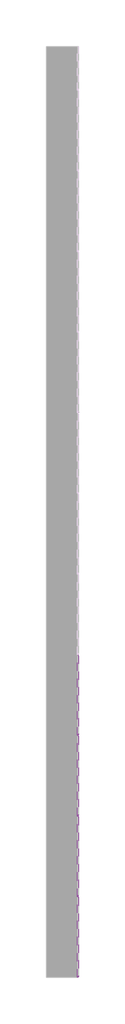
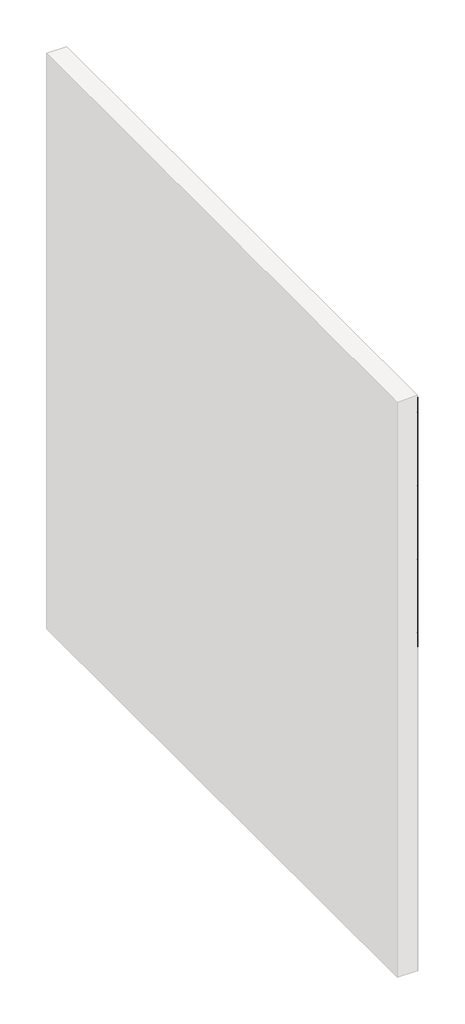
# One storey, part 2 of 45: 147 proxies.
"""IFC4 building model written with IfcOpenShell, lengths in millimetres."""

from ifc_helpers import new_model, si_unit, origin, place, context, project, spatial, transform, mapped, element, save
from components import generic_models_ab0f2c30

model = new_model("IFC4")

# Units and contexts
model_context = context("Model", 3, world=origin())
ifc_project = project(units=[si_unit("LENGTHUNIT", "METRE", prefix="MILLI")], contexts=[model_context])

# Site, building, storey
site = spatial("IfcSite", under=ifc_project)
building = spatial("IfcBuilding", under=site)
storey = spatial("IfcBuildingStorey", under=building, Name="PORTOBELLO - SHOWROOM", Elevation=0.0)

# Proxies
placement = place(None, origin())
generic_models_shape = generic_models_ab0f2c30(model_context)
element("IfcBuildingElementProxy", 1, Name="PBSHOP - HORIZONTES JAIPUR 6,5X23 : JAIPUR CHANDRA", ObjectType="PBSHOP - HORIZONTES JAIPUR 6,5X23 : JAIPUR CHANDRA", at=placement, inside=storey, context=model_context, shape_type="MappedRepresentation", body=[
    mapped(generic_models_shape, transform((63939.1036979, 2039.9760255, 34.5), x_axis=(0.0, 0.0, 1.0), y_axis=(0.0, -1.0, 0.0), z_axis=(1.0, 0.0, 0.0))),
])
element("IfcBuildingElementProxy", 2, Name="PBSHOP - HORIZONTES JAIPUR 6,5X23 : JAIPUR CHANDRA", ObjectType="PBSHOP - HORIZONTES JAIPUR 6,5X23 : JAIPUR CHANDRA", at=placement, inside=storey, context=model_context, shape_type="MappedRepresentation", body=[
    mapped(generic_models_shape, transform((63939.1036979, 2273.9760255, 34.5), x_axis=(0.0, 0.0, 1.0), y_axis=(0.0, -1.0, 0.0), z_axis=(1.0, 0.0, 0.0))),
])
element("IfcBuildingElementProxy", 3, Name="PBSHOP - HORIZONTES JAIPUR 6,5X23 : JAIPUR CHANDRA", ObjectType="PBSHOP - HORIZONTES JAIPUR 6,5X23 : JAIPUR CHANDRA", at=placement, inside=storey, context=model_context, shape_type="MappedRepresentation", body=[
    mapped(generic_models_shape, transform((63939.1036979, 2507.9760255, 34.5), x_axis=(0.0, 0.0, 1.0), y_axis=(0.0, -1.0, 0.0), z_axis=(1.0, 0.0, 0.0))),
])
element("IfcBuildingElementProxy", 4, Name="PBSHOP - HORIZONTES JAIPUR 6,5X23 : JAIPUR CHANDRA", ObjectType="PBSHOP - HORIZONTES JAIPUR 6,5X23 : JAIPUR CHANDRA", at=placement, inside=storey, context=model_context, shape_type="MappedRepresentation", body=[
    mapped(generic_models_shape, transform((63939.1036979, 2741.9760255, 34.5), x_axis=(0.0, 0.0, 1.0), y_axis=(0.0, -1.0, 0.0), z_axis=(1.0, 0.0, 0.0))),
])
element("IfcBuildingElementProxy", 5, Name="PBSHOP - HORIZONTES JAIPUR 6,5X23 : JAIPUR CHANDRA", ObjectType="PBSHOP - HORIZONTES JAIPUR 6,5X23 : JAIPUR CHANDRA", at=placement, inside=storey, context=model_context, shape_type="MappedRepresentation", body=[
    mapped(generic_models_shape, transform((63939.1036979, 2975.9760255, 34.5), x_axis=(0.0, 0.0, 1.0), y_axis=(0.0, -1.0, 0.0), z_axis=(1.0, 0.0, 0.0))),
])
element("IfcBuildingElementProxy", 6, Name="PBSHOP - HORIZONTES JAIPUR 6,5X23 : JAIPUR CHANDRA", ObjectType="PBSHOP - HORIZONTES JAIPUR 6,5X23 : JAIPUR CHANDRA", at=placement, inside=storey, context=model_context, shape_type="MappedRepresentation", body=[
    mapped(generic_models_shape, transform((63939.1036979, 2039.9760255, 103.5), x_axis=(0.0, 0.0, 1.0), y_axis=(0.0, -1.0, 0.0), z_axis=(1.0, 0.0, 0.0))),
])
element("IfcBuildingElementProxy", 7, Name="PBSHOP - HORIZONTES JAIPUR 6,5X23 : JAIPUR CHANDRA", ObjectType="PBSHOP - HORIZONTES JAIPUR 6,5X23 : JAIPUR CHANDRA", at=placement, inside=storey, context=model_context, shape_type="MappedRepresentation", body=[
    mapped(generic_models_shape, transform((63939.1036979, 2273.9760255, 103.5), x_axis=(0.0, 0.0, 1.0), y_axis=(0.0, -1.0, 0.0), z_axis=(1.0, 0.0, 0.0))),
])
element("IfcBuildingElementProxy", 8, Name="PBSHOP - HORIZONTES JAIPUR 6,5X23 : JAIPUR CHANDRA", ObjectType="PBSHOP - HORIZONTES JAIPUR 6,5X23 : JAIPUR CHANDRA", at=placement, inside=storey, context=model_context, shape_type="MappedRepresentation", body=[
    mapped(generic_models_shape, transform((63939.1036979, 2507.9760255, 103.5), x_axis=(0.0, 0.0, 1.0), y_axis=(0.0, -1.0, 0.0), z_axis=(1.0, 0.0, 0.0))),
])
element("IfcBuildingElementProxy", 9, Name="PBSHOP - HORIZONTES JAIPUR 6,5X23 : JAIPUR CHANDRA", ObjectType="PBSHOP - HORIZONTES JAIPUR 6,5X23 : JAIPUR CHANDRA", at=placement, inside=storey, context=model_context, shape_type="MappedRepresentation", body=[
    mapped(generic_models_shape, transform((63939.1036979, 2741.9760255, 103.5), x_axis=(0.0, 0.0, 1.0), y_axis=(0.0, -1.0, 0.0), z_axis=(1.0, 0.0, 0.0))),
])
element("IfcBuildingElementProxy", 10, Name="PBSHOP - HORIZONTES JAIPUR 6,5X23 : JAIPUR CHANDRA", ObjectType="PBSHOP - HORIZONTES JAIPUR 6,5X23 : JAIPUR CHANDRA", at=placement, inside=storey, context=model_context, shape_type="MappedRepresentation", body=[
    mapped(generic_models_shape, transform((63939.1036979, 2975.9760255, 103.5), x_axis=(0.0, 0.0, 1.0), y_axis=(0.0, -1.0, 0.0), z_axis=(1.0, 0.0, 0.0))),
])
element("IfcBuildingElementProxy", 11, Name="PBSHOP - HORIZONTES JAIPUR 6,5X23 : JAIPUR CHANDRA", ObjectType="PBSHOP - HORIZONTES JAIPUR 6,5X23 : JAIPUR CHANDRA", at=placement, inside=storey, context=model_context, shape_type="MappedRepresentation", body=[
    mapped(generic_models_shape, transform((63939.1036979, 2039.9760255, 172.5), x_axis=(0.0, 0.0, 1.0), y_axis=(0.0, -1.0, 0.0), z_axis=(1.0, 0.0, 0.0))),
])
element("IfcBuildingElementProxy", 12, Name="PBSHOP - HORIZONTES JAIPUR 6,5X23 : JAIPUR CHANDRA", ObjectType="PBSHOP - HORIZONTES JAIPUR 6,5X23 : JAIPUR CHANDRA", at=placement, inside=storey, context=model_context, shape_type="MappedRepresentation", body=[
    mapped(generic_models_shape, transform((63939.1036979, 2273.9760255, 172.5), x_axis=(0.0, 0.0, 1.0), y_axis=(0.0, -1.0, 0.0), z_axis=(1.0, 0.0, 0.0))),
])
element("IfcBuildingElementProxy", 13, Name="PBSHOP - HORIZONTES JAIPUR 6,5X23 : JAIPUR CHANDRA", ObjectType="PBSHOP - HORIZONTES JAIPUR 6,5X23 : JAIPUR CHANDRA", at=placement, inside=storey, context=model_context, shape_type="MappedRepresentation", body=[
    mapped(generic_models_shape, transform((63939.1036979, 2507.9760255, 172.5), x_axis=(0.0, 0.0, 1.0), y_axis=(0.0, -1.0, 0.0), z_axis=(1.0, 0.0, 0.0))),
])
element("IfcBuildingElementProxy", 14, Name="PBSHOP - HORIZONTES JAIPUR 6,5X23 : JAIPUR CHANDRA", ObjectType="PBSHOP - HORIZONTES JAIPUR 6,5X23 : JAIPUR CHANDRA", at=placement, inside=storey, context=model_context, shape_type="MappedRepresentation", body=[
    mapped(generic_models_shape, transform((63939.1036979, 2741.9760255, 172.5), x_axis=(0.0, 0.0, 1.0), y_axis=(0.0, -1.0, 0.0), z_axis=(1.0, 0.0, 0.0))),
])
element("IfcBuildingElementProxy", 15, Name="PBSHOP - HORIZONTES JAIPUR 6,5X23 : JAIPUR CHANDRA", ObjectType="PBSHOP - HORIZONTES JAIPUR 6,5X23 : JAIPUR CHANDRA", at=placement, inside=storey, context=model_context, shape_type="MappedRepresentation", body=[
    mapped(generic_models_shape, transform((63939.1036979, 2975.9760255, 172.5), x_axis=(0.0, 0.0, 1.0), y_axis=(0.0, -1.0, 0.0), z_axis=(1.0, 0.0, 0.0))),
])
element("IfcBuildingElementProxy", 16, Name="PBSHOP - HORIZONTES JAIPUR 6,5X23 : JAIPUR CHANDRA", ObjectType="PBSHOP - HORIZONTES JAIPUR 6,5X23 : JAIPUR CHANDRA", at=placement, inside=storey, context=model_context, shape_type="MappedRepresentation", body=[
    mapped(generic_models_shape, transform((63939.1036979, 2039.9760255, 241.5), x_axis=(0.0, 0.0, 1.0), y_axis=(0.0, -1.0, 0.0), z_axis=(1.0, 0.0, 0.0))),
])
element("IfcBuildingElementProxy", 17, Name="PBSHOP - HORIZONTES JAIPUR 6,5X23 : JAIPUR CHANDRA", ObjectType="PBSHOP - HORIZONTES JAIPUR 6,5X23 : JAIPUR CHANDRA", at=placement, inside=storey, context=model_context, shape_type="MappedRepresentation", body=[
    mapped(generic_models_shape, transform((63939.1036979, 2273.9760255, 241.5), x_axis=(0.0, 0.0, 1.0), y_axis=(0.0, -1.0, 0.0), z_axis=(1.0, 0.0, 0.0))),
])
element("IfcBuildingElementProxy", 18, Name="PBSHOP - HORIZONTES JAIPUR 6,5X23 : JAIPUR CHANDRA", ObjectType="PBSHOP - HORIZONTES JAIPUR 6,5X23 : JAIPUR CHANDRA", at=placement, inside=storey, context=model_context, shape_type="MappedRepresentation", body=[
    mapped(generic_models_shape, transform((63939.1036979, 2507.9760255, 241.5), x_axis=(0.0, 0.0, 1.0), y_axis=(0.0, -1.0, 0.0), z_axis=(1.0, 0.0, 0.0))),
])
element("IfcBuildingElementProxy", 19, Name="PBSHOP - HORIZONTES JAIPUR 6,5X23 : JAIPUR CHANDRA", ObjectType="PBSHOP - HORIZONTES JAIPUR 6,5X23 : JAIPUR CHANDRA", at=placement, inside=storey, context=model_context, shape_type="MappedRepresentation", body=[
    mapped(generic_models_shape, transform((63939.1036979, 2741.9760255, 241.5), x_axis=(0.0, 0.0, 1.0), y_axis=(0.0, -1.0, 0.0), z_axis=(1.0, 0.0, 0.0))),
])
element("IfcBuildingElementProxy", 20, Name="PBSHOP - HORIZONTES JAIPUR 6,5X23 : JAIPUR CHANDRA", ObjectType="PBSHOP - HORIZONTES JAIPUR 6,5X23 : JAIPUR CHANDRA", at=placement, inside=storey, context=model_context, shape_type="MappedRepresentation", body=[
    mapped(generic_models_shape, transform((63939.1036979, 2975.9760255, 241.5), x_axis=(0.0, 0.0, 1.0), y_axis=(0.0, -1.0, 0.0), z_axis=(1.0, 0.0, 0.0))),
])
element("IfcBuildingElementProxy", 21, Name="PBSHOP - HORIZONTES JAIPUR 6,5X23 : JAIPUR CHANDRA", ObjectType="PBSHOP - HORIZONTES JAIPUR 6,5X23 : JAIPUR CHANDRA", at=placement, inside=storey, context=model_context, shape_type="MappedRepresentation", body=[
    mapped(generic_models_shape, transform((63939.1036979, 2039.9760255, 310.5), x_axis=(0.0, 0.0, 1.0), y_axis=(0.0, -1.0, 0.0), z_axis=(1.0, 0.0, 0.0))),
])
element("IfcBuildingElementProxy", 22, Name="PBSHOP - HORIZONTES JAIPUR 6,5X23 : JAIPUR CHANDRA", ObjectType="PBSHOP - HORIZONTES JAIPUR 6,5X23 : JAIPUR CHANDRA", at=placement, inside=storey, context=model_context, shape_type="MappedRepresentation", body=[
    mapped(generic_models_shape, transform((63939.1036979, 2273.9760255, 310.5), x_axis=(0.0, 0.0, 1.0), y_axis=(0.0, -1.0, 0.0), z_axis=(1.0, 0.0, 0.0))),
])
element("IfcBuildingElementProxy", 23, Name="PBSHOP - HORIZONTES JAIPUR 6,5X23 : JAIPUR CHANDRA", ObjectType="PBSHOP - HORIZONTES JAIPUR 6,5X23 : JAIPUR CHANDRA", at=placement, inside=storey, context=model_context, shape_type="MappedRepresentation", body=[
    mapped(generic_models_shape, transform((63939.1036979, 2507.9760255, 310.5), x_axis=(0.0, 0.0, 1.0), y_axis=(0.0, -1.0, 0.0), z_axis=(1.0, 0.0, 0.0))),
])
element("IfcBuildingElementProxy", 24, Name="PBSHOP - HORIZONTES JAIPUR 6,5X23 : JAIPUR CHANDRA", ObjectType="PBSHOP - HORIZONTES JAIPUR 6,5X23 : JAIPUR CHANDRA", at=placement, inside=storey, context=model_context, shape_type="MappedRepresentation", body=[
    mapped(generic_models_shape, transform((63939.1036979, 2741.9760255, 310.5), x_axis=(0.0, 0.0, 1.0), y_axis=(0.0, -1.0, 0.0), z_axis=(1.0, 0.0, 0.0))),
])
element("IfcBuildingElementProxy", 25, Name="PBSHOP - HORIZONTES JAIPUR 6,5X23 : JAIPUR CHANDRA", ObjectType="PBSHOP - HORIZONTES JAIPUR 6,5X23 : JAIPUR CHANDRA", at=placement, inside=storey, context=model_context, shape_type="MappedRepresentation", body=[
    mapped(generic_models_shape, transform((63939.1036979, 2975.9760255, 310.5), x_axis=(0.0, 0.0, 1.0), y_axis=(0.0, -1.0, 0.0), z_axis=(1.0, 0.0, 0.0))),
])
element("IfcBuildingElementProxy", 26, Name="PBSHOP - HORIZONTES JAIPUR 6,5X23 : JAIPUR CHANDRA", ObjectType="PBSHOP - HORIZONTES JAIPUR 6,5X23 : JAIPUR CHANDRA", at=placement, inside=storey, context=model_context, shape_type="MappedRepresentation", body=[
    mapped(generic_models_shape, transform((63939.1036979, 2039.9760255, 379.5), x_axis=(0.0, 0.0, 1.0), y_axis=(0.0, -1.0, 0.0), z_axis=(1.0, 0.0, 0.0))),
])
element("IfcBuildingElementProxy", 27, Name="PBSHOP - HORIZONTES JAIPUR 6,5X23 : JAIPUR CHANDRA", ObjectType="PBSHOP - HORIZONTES JAIPUR 6,5X23 : JAIPUR CHANDRA", at=placement, inside=storey, context=model_context, shape_type="MappedRepresentation", body=[
    mapped(generic_models_shape, transform((63939.1036979, 2273.9760255, 379.5), x_axis=(0.0, 0.0, 1.0), y_axis=(0.0, -1.0, 0.0), z_axis=(1.0, 0.0, 0.0))),
])
element("IfcBuildingElementProxy", 28, Name="PBSHOP - HORIZONTES JAIPUR 6,5X23 : JAIPUR CHANDRA", ObjectType="PBSHOP - HORIZONTES JAIPUR 6,5X23 : JAIPUR CHANDRA", at=placement, inside=storey, context=model_context, shape_type="MappedRepresentation", body=[
    mapped(generic_models_shape, transform((63939.1036979, 2507.9760255, 379.5), x_axis=(0.0, 0.0, 1.0), y_axis=(0.0, -1.0, 0.0), z_axis=(1.0, 0.0, 0.0))),
])
element("IfcBuildingElementProxy", 29, Name="PBSHOP - HORIZONTES JAIPUR 6,5X23 : JAIPUR CHANDRA", ObjectType="PBSHOP - HORIZONTES JAIPUR 6,5X23 : JAIPUR CHANDRA", at=placement, inside=storey, context=model_context, shape_type="MappedRepresentation", body=[
    mapped(generic_models_shape, transform((63939.1036979, 2741.9760255, 379.5), x_axis=(0.0, 0.0, 1.0), y_axis=(0.0, -1.0, 0.0), z_axis=(1.0, 0.0, 0.0))),
])
element("IfcBuildingElementProxy", 30, Name="PBSHOP - HORIZONTES JAIPUR 6,5X23 : JAIPUR CHANDRA", ObjectType="PBSHOP - HORIZONTES JAIPUR 6,5X23 : JAIPUR CHANDRA", at=placement, inside=storey, context=model_context, shape_type="MappedRepresentation", body=[
    mapped(generic_models_shape, transform((63939.1036979, 2975.9760255, 379.5), x_axis=(0.0, 0.0, 1.0), y_axis=(0.0, -1.0, 0.0), z_axis=(1.0, 0.0, 0.0))),
])
element("IfcBuildingElementProxy", 31, Name="PBSHOP - HORIZONTES JAIPUR 6,5X23 : JAIPUR CHANDRA", ObjectType="PBSHOP - HORIZONTES JAIPUR 6,5X23 : JAIPUR CHANDRA", at=placement, inside=storey, context=model_context, shape_type="MappedRepresentation", body=[
    mapped(generic_models_shape, transform((63939.1036979, 2039.9760255, 448.5), x_axis=(0.0, 0.0, 1.0), y_axis=(0.0, -1.0, 0.0), z_axis=(1.0, 0.0, 0.0))),
])
element("IfcBuildingElementProxy", 32, Name="PBSHOP - HORIZONTES JAIPUR 6,5X23 : JAIPUR CHANDRA", ObjectType="PBSHOP - HORIZONTES JAIPUR 6,5X23 : JAIPUR CHANDRA", at=placement, inside=storey, context=model_context, shape_type="MappedRepresentation", body=[
    mapped(generic_models_shape, transform((63939.1036979, 2273.9760255, 448.5), x_axis=(0.0, 0.0, 1.0), y_axis=(0.0, -1.0, 0.0), z_axis=(1.0, 0.0, 0.0))),
])
element("IfcBuildingElementProxy", 33, Name="PBSHOP - HORIZONTES JAIPUR 6,5X23 : JAIPUR CHANDRA", ObjectType="PBSHOP - HORIZONTES JAIPUR 6,5X23 : JAIPUR CHANDRA", at=placement, inside=storey, context=model_context, shape_type="MappedRepresentation", body=[
    mapped(generic_models_shape, transform((63939.1036979, 2507.9760255, 448.5), x_axis=(0.0, 0.0, 1.0), y_axis=(0.0, -1.0, 0.0), z_axis=(1.0, 0.0, 0.0))),
])
element("IfcBuildingElementProxy", 34, Name="PBSHOP - HORIZONTES JAIPUR 6,5X23 : JAIPUR CHANDRA", ObjectType="PBSHOP - HORIZONTES JAIPUR 6,5X23 : JAIPUR CHANDRA", at=placement, inside=storey, context=model_context, shape_type="MappedRepresentation", body=[
    mapped(generic_models_shape, transform((63939.1036979, 2741.9760255, 448.5), x_axis=(0.0, 0.0, 1.0), y_axis=(0.0, -1.0, 0.0), z_axis=(1.0, 0.0, 0.0))),
])
element("IfcBuildingElementProxy", 35, Name="PBSHOP - HORIZONTES JAIPUR 6,5X23 : JAIPUR CHANDRA", ObjectType="PBSHOP - HORIZONTES JAIPUR 6,5X23 : JAIPUR CHANDRA", at=placement, inside=storey, context=model_context, shape_type="MappedRepresentation", body=[
    mapped(generic_models_shape, transform((63939.1036979, 2975.9760255, 448.5), x_axis=(0.0, 0.0, 1.0), y_axis=(0.0, -1.0, 0.0), z_axis=(1.0, 0.0, 0.0))),
])
element("IfcBuildingElementProxy", 36, Name="PBSHOP - HORIZONTES JAIPUR 6,5X23 : JAIPUR CHANDRA", ObjectType="PBSHOP - HORIZONTES JAIPUR 6,5X23 : JAIPUR CHANDRA", at=placement, inside=storey, context=model_context, shape_type="MappedRepresentation", body=[
    mapped(generic_models_shape, transform((63939.1036979, 2039.9760255, 517.5), x_axis=(0.0, 0.0, 1.0), y_axis=(0.0, -1.0, 0.0), z_axis=(1.0, 0.0, 0.0))),
])
element("IfcBuildingElementProxy", 37, Name="PBSHOP - HORIZONTES JAIPUR 6,5X23 : JAIPUR CHANDRA", ObjectType="PBSHOP - HORIZONTES JAIPUR 6,5X23 : JAIPUR CHANDRA", at=placement, inside=storey, context=model_context, shape_type="MappedRepresentation", body=[
    mapped(generic_models_shape, transform((63939.1036979, 2273.9760255, 517.5), x_axis=(0.0, 0.0, 1.0), y_axis=(0.0, -1.0, 0.0), z_axis=(1.0, 0.0, 0.0))),
])
element("IfcBuildingElementProxy", 38, Name="PBSHOP - HORIZONTES JAIPUR 6,5X23 : JAIPUR CHANDRA", ObjectType="PBSHOP - HORIZONTES JAIPUR 6,5X23 : JAIPUR CHANDRA", at=placement, inside=storey, context=model_context, shape_type="MappedRepresentation", body=[
    mapped(generic_models_shape, transform((63939.1036979, 2507.9760255, 517.5), x_axis=(0.0, 0.0, 1.0), y_axis=(0.0, -1.0, 0.0), z_axis=(1.0, 0.0, 0.0))),
])
element("IfcBuildingElementProxy", 39, Name="PBSHOP - HORIZONTES JAIPUR 6,5X23 : JAIPUR CHANDRA", ObjectType="PBSHOP - HORIZONTES JAIPUR 6,5X23 : JAIPUR CHANDRA", at=placement, inside=storey, context=model_context, shape_type="MappedRepresentation", body=[
    mapped(generic_models_shape, transform((63939.1036979, 2741.9760255, 517.5), x_axis=(0.0, 0.0, 1.0), y_axis=(0.0, -1.0, 0.0), z_axis=(1.0, 0.0, 0.0))),
])
element("IfcBuildingElementProxy", 40, Name="PBSHOP - HORIZONTES JAIPUR 6,5X23 : JAIPUR CHANDRA", ObjectType="PBSHOP - HORIZONTES JAIPUR 6,5X23 : JAIPUR CHANDRA", at=placement, inside=storey, context=model_context, shape_type="MappedRepresentation", body=[
    mapped(generic_models_shape, transform((63939.1036979, 2975.9760255, 517.5), x_axis=(0.0, 0.0, 1.0), y_axis=(0.0, -1.0, 0.0), z_axis=(1.0, 0.0, 0.0))),
])
element("IfcBuildingElementProxy", 41, Name="PBSHOP - HORIZONTES JAIPUR 6,5X23 : JAIPUR CHANDRA", ObjectType="PBSHOP - HORIZONTES JAIPUR 6,5X23 : JAIPUR CHANDRA", at=placement, inside=storey, context=model_context, shape_type="MappedRepresentation", body=[
    mapped(generic_models_shape, transform((63939.1036979, 2039.9760255, 586.5), x_axis=(0.0, 0.0, 1.0), y_axis=(0.0, -1.0, 0.0), z_axis=(1.0, 0.0, 0.0))),
])
element("IfcBuildingElementProxy", 42, Name="PBSHOP - HORIZONTES JAIPUR 6,5X23 : JAIPUR CHANDRA", ObjectType="PBSHOP - HORIZONTES JAIPUR 6,5X23 : JAIPUR CHANDRA", at=placement, inside=storey, context=model_context, shape_type="MappedRepresentation", body=[
    mapped(generic_models_shape, transform((63939.1036979, 2273.9760255, 586.5), x_axis=(0.0, 0.0, 1.0), y_axis=(0.0, -1.0, 0.0), z_axis=(1.0, 0.0, 0.0))),
])
element("IfcBuildingElementProxy", 43, Name="PBSHOP - HORIZONTES JAIPUR 6,5X23 : JAIPUR CHANDRA", ObjectType="PBSHOP - HORIZONTES JAIPUR 6,5X23 : JAIPUR CHANDRA", at=placement, inside=storey, context=model_context, shape_type="MappedRepresentation", body=[
    mapped(generic_models_shape, transform((63939.1036979, 2507.9760255, 586.5), x_axis=(0.0, 0.0, 1.0), y_axis=(0.0, -1.0, 0.0), z_axis=(1.0, 0.0, 0.0))),
])
element("IfcBuildingElementProxy", 44, Name="PBSHOP - HORIZONTES JAIPUR 6,5X23 : JAIPUR CHANDRA", ObjectType="PBSHOP - HORIZONTES JAIPUR 6,5X23 : JAIPUR CHANDRA", at=placement, inside=storey, context=model_context, shape_type="MappedRepresentation", body=[
    mapped(generic_models_shape, transform((63939.1036979, 2741.9760255, 586.5), x_axis=(0.0, 0.0, 1.0), y_axis=(0.0, -1.0, 0.0), z_axis=(1.0, 0.0, 0.0))),
])
element("IfcBuildingElementProxy", 45, Name="PBSHOP - HORIZONTES JAIPUR 6,5X23 : JAIPUR CHANDRA", ObjectType="PBSHOP - HORIZONTES JAIPUR 6,5X23 : JAIPUR CHANDRA", at=placement, inside=storey, context=model_context, shape_type="MappedRepresentation", body=[
    mapped(generic_models_shape, transform((63939.1036979, 2975.9760255, 586.5), x_axis=(0.0, 0.0, 1.0), y_axis=(0.0, -1.0, 0.0), z_axis=(1.0, 0.0, 0.0))),
])
element("IfcBuildingElementProxy", 46, Name="PBSHOP - HORIZONTES JAIPUR 6,5X23 : JAIPUR CHANDRA", ObjectType="PBSHOP - HORIZONTES JAIPUR 6,5X23 : JAIPUR CHANDRA", at=placement, inside=storey, context=model_context, shape_type="MappedRepresentation", body=[
    mapped(generic_models_shape, transform((63939.1036979, 2039.9760255, 655.5), x_axis=(0.0, 0.0, 1.0), y_axis=(0.0, -1.0, 0.0), z_axis=(1.0, 0.0, 0.0))),
])
element("IfcBuildingElementProxy", 47, Name="PBSHOP - HORIZONTES JAIPUR 6,5X23 : JAIPUR CHANDRA", ObjectType="PBSHOP - HORIZONTES JAIPUR 6,5X23 : JAIPUR CHANDRA", at=placement, inside=storey, context=model_context, shape_type="MappedRepresentation", body=[
    mapped(generic_models_shape, transform((63939.1036979, 2273.9760255, 655.5), x_axis=(0.0, 0.0, 1.0), y_axis=(0.0, -1.0, 0.0), z_axis=(1.0, 0.0, 0.0))),
])
element("IfcBuildingElementProxy", 48, Name="PBSHOP - HORIZONTES JAIPUR 6,5X23 : JAIPUR CHANDRA", ObjectType="PBSHOP - HORIZONTES JAIPUR 6,5X23 : JAIPUR CHANDRA", at=placement, inside=storey, context=model_context, shape_type="MappedRepresentation", body=[
    mapped(generic_models_shape, transform((63939.1036979, 2507.9760255, 655.5), x_axis=(0.0, 0.0, 1.0), y_axis=(0.0, -1.0, 0.0), z_axis=(1.0, 0.0, 0.0))),
])
element("IfcBuildingElementProxy", 49, Name="PBSHOP - HORIZONTES JAIPUR 6,5X23 : JAIPUR CHANDRA", ObjectType="PBSHOP - HORIZONTES JAIPUR 6,5X23 : JAIPUR CHANDRA", at=placement, inside=storey, context=model_context, shape_type="MappedRepresentation", body=[
    mapped(generic_models_shape, transform((63939.1036979, 2741.9760255, 655.5), x_axis=(0.0, 0.0, 1.0), y_axis=(0.0, -1.0, 0.0), z_axis=(1.0, 0.0, 0.0))),
])
element("IfcBuildingElementProxy", 50, Name="PBSHOP - HORIZONTES JAIPUR 6,5X23 : JAIPUR CHANDRA", ObjectType="PBSHOP - HORIZONTES JAIPUR 6,5X23 : JAIPUR CHANDRA", at=placement, inside=storey, context=model_context, shape_type="MappedRepresentation", body=[
    mapped(generic_models_shape, transform((63939.1036979, 2975.9760255, 655.5), x_axis=(0.0, 0.0, 1.0), y_axis=(0.0, -1.0, 0.0), z_axis=(1.0, 0.0, 0.0))),
])
element("IfcBuildingElementProxy", 51, Name="PBSHOP - HORIZONTES JAIPUR 6,5X23 : JAIPUR CHANDRA", ObjectType="PBSHOP - HORIZONTES JAIPUR 6,5X23 : JAIPUR CHANDRA", at=placement, inside=storey, context=model_context, shape_type="MappedRepresentation", body=[
    mapped(generic_models_shape, transform((63939.1036979, 2039.9760255, 724.5), x_axis=(0.0, 0.0, 1.0), y_axis=(0.0, -1.0, 0.0), z_axis=(1.0, 0.0, 0.0))),
])
element("IfcBuildingElementProxy", 52, Name="PBSHOP - HORIZONTES JAIPUR 6,5X23 : JAIPUR CHANDRA", ObjectType="PBSHOP - HORIZONTES JAIPUR 6,5X23 : JAIPUR CHANDRA", at=placement, inside=storey, context=model_context, shape_type="MappedRepresentation", body=[
    mapped(generic_models_shape, transform((63939.1036979, 2273.9760255, 724.5), x_axis=(0.0, 0.0, 1.0), y_axis=(0.0, -1.0, 0.0), z_axis=(1.0, 0.0, 0.0))),
])
element("IfcBuildingElementProxy", 53, Name="PBSHOP - HORIZONTES JAIPUR 6,5X23 : JAIPUR CHANDRA", ObjectType="PBSHOP - HORIZONTES JAIPUR 6,5X23 : JAIPUR CHANDRA", at=placement, inside=storey, context=model_context, shape_type="MappedRepresentation", body=[
    mapped(generic_models_shape, transform((63939.1036979, 2507.9760255, 724.5), x_axis=(0.0, 0.0, 1.0), y_axis=(0.0, -1.0, 0.0), z_axis=(1.0, 0.0, 0.0))),
])
element("IfcBuildingElementProxy", 54, Name="PBSHOP - HORIZONTES JAIPUR 6,5X23 : JAIPUR CHANDRA", ObjectType="PBSHOP - HORIZONTES JAIPUR 6,5X23 : JAIPUR CHANDRA", at=placement, inside=storey, context=model_context, shape_type="MappedRepresentation", body=[
    mapped(generic_models_shape, transform((63939.1036979, 2741.9760255, 724.5), x_axis=(0.0, 0.0, 1.0), y_axis=(0.0, -1.0, 0.0), z_axis=(1.0, 0.0, 0.0))),
])
element("IfcBuildingElementProxy", 55, Name="PBSHOP - HORIZONTES JAIPUR 6,5X23 : JAIPUR CHANDRA", ObjectType="PBSHOP - HORIZONTES JAIPUR 6,5X23 : JAIPUR CHANDRA", at=placement, inside=storey, context=model_context, shape_type="MappedRepresentation", body=[
    mapped(generic_models_shape, transform((63939.1036979, 2975.9760255, 724.5), x_axis=(0.0, 0.0, 1.0), y_axis=(0.0, -1.0, 0.0), z_axis=(1.0, 0.0, 0.0))),
])
element("IfcBuildingElementProxy", 56, Name="PBSHOP - HORIZONTES JAIPUR 6,5X23 : JAIPUR CHANDRA", ObjectType="PBSHOP - HORIZONTES JAIPUR 6,5X23 : JAIPUR CHANDRA", at=placement, inside=storey, context=model_context, shape_type="MappedRepresentation", body=[
    mapped(generic_models_shape, transform((63939.1036979, 2039.9760255, 793.5), x_axis=(0.0, 0.0, 1.0), y_axis=(0.0, -1.0, 0.0), z_axis=(1.0, 0.0, 0.0))),
])
element("IfcBuildingElementProxy", 57, Name="PBSHOP - HORIZONTES JAIPUR 6,5X23 : JAIPUR CHANDRA", ObjectType="PBSHOP - HORIZONTES JAIPUR 6,5X23 : JAIPUR CHANDRA", at=placement, inside=storey, context=model_context, shape_type="MappedRepresentation", body=[
    mapped(generic_models_shape, transform((63939.1036979, 2273.9760255, 793.5), x_axis=(0.0, 0.0, 1.0), y_axis=(0.0, -1.0, 0.0), z_axis=(1.0, 0.0, 0.0))),
])
element("IfcBuildingElementProxy", 58, Name="PBSHOP - HORIZONTES JAIPUR 6,5X23 : JAIPUR CHANDRA", ObjectType="PBSHOP - HORIZONTES JAIPUR 6,5X23 : JAIPUR CHANDRA", at=placement, inside=storey, context=model_context, shape_type="MappedRepresentation", body=[
    mapped(generic_models_shape, transform((63939.1036979, 2507.9760255, 793.5), x_axis=(0.0, 0.0, 1.0), y_axis=(0.0, -1.0, 0.0), z_axis=(1.0, 0.0, 0.0))),
])
element("IfcBuildingElementProxy", 59, Name="PBSHOP - HORIZONTES JAIPUR 6,5X23 : JAIPUR CHANDRA", ObjectType="PBSHOP - HORIZONTES JAIPUR 6,5X23 : JAIPUR CHANDRA", at=placement, inside=storey, context=model_context, shape_type="MappedRepresentation", body=[
    mapped(generic_models_shape, transform((63939.1036979, 2741.9760255, 793.5), x_axis=(0.0, 0.0, 1.0), y_axis=(0.0, -1.0, 0.0), z_axis=(1.0, 0.0, 0.0))),
])
element("IfcBuildingElementProxy", 60, Name="PBSHOP - HORIZONTES JAIPUR 6,5X23 : JAIPUR CHANDRA", ObjectType="PBSHOP - HORIZONTES JAIPUR 6,5X23 : JAIPUR CHANDRA", at=placement, inside=storey, context=model_context, shape_type="MappedRepresentation", body=[
    mapped(generic_models_shape, transform((63939.1036979, 2975.9760255, 793.5), x_axis=(0.0, 0.0, 1.0), y_axis=(0.0, -1.0, 0.0), z_axis=(1.0, 0.0, 0.0))),
])
element("IfcBuildingElementProxy", 61, Name="PBSHOP - HORIZONTES JAIPUR 6,5X23 : JAIPUR CHANDRA", ObjectType="PBSHOP - HORIZONTES JAIPUR 6,5X23 : JAIPUR CHANDRA", at=placement, inside=storey, context=model_context, shape_type="MappedRepresentation", body=[
    mapped(generic_models_shape, transform((63939.1036979, 2039.9760255, 862.5), x_axis=(0.0, 0.0, 1.0), y_axis=(0.0, -1.0, 0.0), z_axis=(1.0, 0.0, 0.0))),
])
element("IfcBuildingElementProxy", 62, Name="PBSHOP - HORIZONTES JAIPUR 6,5X23 : JAIPUR CHANDRA", ObjectType="PBSHOP - HORIZONTES JAIPUR 6,5X23 : JAIPUR CHANDRA", at=placement, inside=storey, context=model_context, shape_type="MappedRepresentation", body=[
    mapped(generic_models_shape, transform((63939.1036979, 2273.9760255, 862.5), x_axis=(0.0, 0.0, 1.0), y_axis=(0.0, -1.0, 0.0), z_axis=(1.0, 0.0, 0.0))),
])
element("IfcBuildingElementProxy", 63, Name="PBSHOP - HORIZONTES JAIPUR 6,5X23 : JAIPUR CHANDRA", ObjectType="PBSHOP - HORIZONTES JAIPUR 6,5X23 : JAIPUR CHANDRA", at=placement, inside=storey, context=model_context, shape_type="MappedRepresentation", body=[
    mapped(generic_models_shape, transform((63939.1036979, 2507.9760255, 862.5), x_axis=(0.0, 0.0, 1.0), y_axis=(0.0, -1.0, 0.0), z_axis=(1.0, 0.0, 0.0))),
])
element("IfcBuildingElementProxy", 64, Name="PBSHOP - HORIZONTES JAIPUR 6,5X23 : JAIPUR CHANDRA", ObjectType="PBSHOP - HORIZONTES JAIPUR 6,5X23 : JAIPUR CHANDRA", at=placement, inside=storey, context=model_context, shape_type="MappedRepresentation", body=[
    mapped(generic_models_shape, transform((63939.1036979, 2741.9760255, 862.5), x_axis=(0.0, 0.0, 1.0), y_axis=(0.0, -1.0, 0.0), z_axis=(1.0, 0.0, 0.0))),
])
element("IfcBuildingElementProxy", 65, Name="PBSHOP - HORIZONTES JAIPUR 6,5X23 : JAIPUR CHANDRA", ObjectType="PBSHOP - HORIZONTES JAIPUR 6,5X23 : JAIPUR CHANDRA", at=placement, inside=storey, context=model_context, shape_type="MappedRepresentation", body=[
    mapped(generic_models_shape, transform((63939.1036979, 2975.9760255, 862.5), x_axis=(0.0, 0.0, 1.0), y_axis=(0.0, -1.0, 0.0), z_axis=(1.0, 0.0, 0.0))),
])
element("IfcBuildingElementProxy", 66, Name="PBSHOP - HORIZONTES JAIPUR 6,5X23 : JAIPUR CHANDRA", ObjectType="PBSHOP - HORIZONTES JAIPUR 6,5X23 : JAIPUR CHANDRA", at=placement, inside=storey, context=model_context, shape_type="MappedRepresentation", body=[
    mapped(generic_models_shape, transform((63939.1036979, 2039.9760255, 931.5), x_axis=(0.0, 0.0, 1.0), y_axis=(0.0, -1.0, 0.0), z_axis=(1.0, 0.0, 0.0))),
])
element("IfcBuildingElementProxy", 67, Name="PBSHOP - HORIZONTES JAIPUR 6,5X23 : JAIPUR CHANDRA", ObjectType="PBSHOP - HORIZONTES JAIPUR 6,5X23 : JAIPUR CHANDRA", at=placement, inside=storey, context=model_context, shape_type="MappedRepresentation", body=[
    mapped(generic_models_shape, transform((63939.1036979, 2273.9760255, 931.5), x_axis=(0.0, 0.0, 1.0), y_axis=(0.0, -1.0, 0.0), z_axis=(1.0, 0.0, 0.0))),
])
element("IfcBuildingElementProxy", 68, Name="PBSHOP - HORIZONTES JAIPUR 6,5X23 : JAIPUR CHANDRA", ObjectType="PBSHOP - HORIZONTES JAIPUR 6,5X23 : JAIPUR CHANDRA", at=placement, inside=storey, context=model_context, shape_type="MappedRepresentation", body=[
    mapped(generic_models_shape, transform((63939.1036979, 2507.9760255, 931.5), x_axis=(0.0, 0.0, 1.0), y_axis=(0.0, -1.0, 0.0), z_axis=(1.0, 0.0, 0.0))),
])
element("IfcBuildingElementProxy", 69, Name="PBSHOP - HORIZONTES JAIPUR 6,5X23 : JAIPUR CHANDRA", ObjectType="PBSHOP - HORIZONTES JAIPUR 6,5X23 : JAIPUR CHANDRA", at=placement, inside=storey, context=model_context, shape_type="MappedRepresentation", body=[
    mapped(generic_models_shape, transform((63939.1036979, 2741.9760255, 931.5), x_axis=(0.0, 0.0, 1.0), y_axis=(0.0, -1.0, 0.0), z_axis=(1.0, 0.0, 0.0))),
])
element("IfcBuildingElementProxy", 70, Name="PBSHOP - HORIZONTES JAIPUR 6,5X23 : JAIPUR CHANDRA", ObjectType="PBSHOP - HORIZONTES JAIPUR 6,5X23 : JAIPUR CHANDRA", at=placement, inside=storey, context=model_context, shape_type="MappedRepresentation", body=[
    mapped(generic_models_shape, transform((63939.1036979, 2975.9760255, 931.5), x_axis=(0.0, 0.0, 1.0), y_axis=(0.0, -1.0, 0.0), z_axis=(1.0, 0.0, 0.0))),
])
element("IfcBuildingElementProxy", 71, Name="PBSHOP - HORIZONTES JAIPUR 6,5X23 : JAIPUR CHANDRA", ObjectType="PBSHOP - HORIZONTES JAIPUR 6,5X23 : JAIPUR CHANDRA", at=placement, inside=storey, context=model_context, shape_type="MappedRepresentation", body=[
    mapped(generic_models_shape, transform((63939.1036979, 2039.9760255, 1000.5), x_axis=(0.0, 0.0, 1.0), y_axis=(0.0, -1.0, 0.0), z_axis=(1.0, 0.0, 0.0))),
])
element("IfcBuildingElementProxy", 72, Name="PBSHOP - HORIZONTES JAIPUR 6,5X23 : JAIPUR CHANDRA", ObjectType="PBSHOP - HORIZONTES JAIPUR 6,5X23 : JAIPUR CHANDRA", at=placement, inside=storey, context=model_context, shape_type="MappedRepresentation", body=[
    mapped(generic_models_shape, transform((63939.1036979, 2273.9760255, 1000.5), x_axis=(0.0, 0.0, 1.0), y_axis=(0.0, -1.0, 0.0), z_axis=(1.0, 0.0, 0.0))),
])
element("IfcBuildingElementProxy", 73, Name="PBSHOP - HORIZONTES JAIPUR 6,5X23 : JAIPUR CHANDRA", ObjectType="PBSHOP - HORIZONTES JAIPUR 6,5X23 : JAIPUR CHANDRA", at=placement, inside=storey, context=model_context, shape_type="MappedRepresentation", body=[
    mapped(generic_models_shape, transform((63939.1036979, 2507.9760255, 1000.5), x_axis=(0.0, 0.0, 1.0), y_axis=(0.0, -1.0, 0.0), z_axis=(1.0, 0.0, 0.0))),
])
element("IfcBuildingElementProxy", 74, Name="PBSHOP - HORIZONTES JAIPUR 6,5X23 : JAIPUR CHANDRA", ObjectType="PBSHOP - HORIZONTES JAIPUR 6,5X23 : JAIPUR CHANDRA", at=placement, inside=storey, context=model_context, shape_type="MappedRepresentation", body=[
    mapped(generic_models_shape, transform((63939.1036979, 2741.9760255, 1000.5), x_axis=(0.0, 0.0, 1.0), y_axis=(0.0, -1.0, 0.0), z_axis=(1.0, 0.0, 0.0))),
])
element("IfcBuildingElementProxy", 75, Name="PBSHOP - HORIZONTES JAIPUR 6,5X23 : JAIPUR CHANDRA", ObjectType="PBSHOP - HORIZONTES JAIPUR 6,5X23 : JAIPUR CHANDRA", at=placement, inside=storey, context=model_context, shape_type="MappedRepresentation", body=[
    mapped(generic_models_shape, transform((63939.1036979, 2975.9760255, 1000.5), x_axis=(0.0, 0.0, 1.0), y_axis=(0.0, -1.0, 0.0), z_axis=(1.0, 0.0, 0.0))),
])
element("IfcBuildingElementProxy", 76, Name="PBSHOP - HORIZONTES JAIPUR 6,5X23 : JAIPUR CHANDRA", ObjectType="PBSHOP - HORIZONTES JAIPUR 6,5X23 : JAIPUR CHANDRA", at=placement, inside=storey, context=model_context, shape_type="MappedRepresentation", body=[
    mapped(generic_models_shape, transform((63939.1036979, 2039.9760255, 1069.5), x_axis=(0.0, 0.0, 1.0), y_axis=(0.0, -1.0, 0.0), z_axis=(1.0, 0.0, 0.0))),
])
element("IfcBuildingElementProxy", 77, Name="PBSHOP - HORIZONTES JAIPUR 6,5X23 : JAIPUR CHANDRA", ObjectType="PBSHOP - HORIZONTES JAIPUR 6,5X23 : JAIPUR CHANDRA", at=placement, inside=storey, context=model_context, shape_type="MappedRepresentation", body=[
    mapped(generic_models_shape, transform((63939.1036979, 2273.9760255, 1069.5), x_axis=(0.0, 0.0, 1.0), y_axis=(0.0, -1.0, 0.0), z_axis=(1.0, 0.0, 0.0))),
])
element("IfcBuildingElementProxy", 78, Name="PBSHOP - HORIZONTES JAIPUR 6,5X23 : JAIPUR CHANDRA", ObjectType="PBSHOP - HORIZONTES JAIPUR 6,5X23 : JAIPUR CHANDRA", at=placement, inside=storey, context=model_context, shape_type="MappedRepresentation", body=[
    mapped(generic_models_shape, transform((63939.1036979, 2507.9760255, 1069.5), x_axis=(0.0, 0.0, 1.0), y_axis=(0.0, -1.0, 0.0), z_axis=(1.0, 0.0, 0.0))),
])
element("IfcBuildingElementProxy", 79, Name="PBSHOP - HORIZONTES JAIPUR 6,5X23 : JAIPUR CHANDRA", ObjectType="PBSHOP - HORIZONTES JAIPUR 6,5X23 : JAIPUR CHANDRA", at=placement, inside=storey, context=model_context, shape_type="MappedRepresentation", body=[
    mapped(generic_models_shape, transform((63939.1036979, 2741.9760255, 1069.5), x_axis=(0.0, 0.0, 1.0), y_axis=(0.0, -1.0, 0.0), z_axis=(1.0, 0.0, 0.0))),
])
element("IfcBuildingElementProxy", 80, Name="PBSHOP - HORIZONTES JAIPUR 6,5X23 : JAIPUR CHANDRA", ObjectType="PBSHOP - HORIZONTES JAIPUR 6,5X23 : JAIPUR CHANDRA", at=placement, inside=storey, context=model_context, shape_type="MappedRepresentation", body=[
    mapped(generic_models_shape, transform((63939.1036979, 1103.9760255, 1552.5), x_axis=(0.0, 0.0, 1.0), y_axis=(0.0, -1.0, 0.0), z_axis=(1.0, 0.0, 0.0))),
])
element("IfcBuildingElementProxy", 81, Name="PBSHOP - HORIZONTES JAIPUR 6,5X23 : JAIPUR CHANDRA", ObjectType="PBSHOP - HORIZONTES JAIPUR 6,5X23 : JAIPUR CHANDRA", at=placement, inside=storey, context=model_context, shape_type="MappedRepresentation", body=[
    mapped(generic_models_shape, transform((63939.1036979, 1337.9760255, 1552.5), x_axis=(0.0, 0.0, 1.0), y_axis=(0.0, -1.0, 0.0), z_axis=(1.0, 0.0, 0.0))),
])
element("IfcBuildingElementProxy", 82, Name="PBSHOP - HORIZONTES JAIPUR 6,5X23 : JAIPUR CHANDRA", ObjectType="PBSHOP - HORIZONTES JAIPUR 6,5X23 : JAIPUR CHANDRA", at=placement, inside=storey, context=model_context, shape_type="MappedRepresentation", body=[
    mapped(generic_models_shape, transform((63939.1036979, 1571.9760255, 1552.5), x_axis=(0.0, 0.0, 1.0), y_axis=(0.0, -1.0, 0.0), z_axis=(1.0, 0.0, 0.0))),
])
element("IfcBuildingElementProxy", 83, Name="PBSHOP - HORIZONTES JAIPUR 6,5X23 : JAIPUR CHANDRA", ObjectType="PBSHOP - HORIZONTES JAIPUR 6,5X23 : JAIPUR CHANDRA", at=placement, inside=storey, context=model_context, shape_type="MappedRepresentation", body=[
    mapped(generic_models_shape, transform((63939.1036979, 1805.9760255, 1552.5), x_axis=(0.0, 0.0, 1.0), y_axis=(0.0, -1.0, 0.0), z_axis=(1.0, 0.0, 0.0))),
])
element("IfcBuildingElementProxy", 84, Name="PBSHOP - HORIZONTES JAIPUR 6,5X23 : JAIPUR CHANDRA", ObjectType="PBSHOP - HORIZONTES JAIPUR 6,5X23 : JAIPUR CHANDRA", at=placement, inside=storey, context=model_context, shape_type="MappedRepresentation", body=[
    mapped(generic_models_shape, transform((63939.1036979, 1103.9760255, 1621.5), x_axis=(0.0, 0.0, 1.0), y_axis=(0.0, -1.0, 0.0), z_axis=(1.0, 0.0, 0.0))),
])
element("IfcBuildingElementProxy", 85, Name="PBSHOP - HORIZONTES JAIPUR 6,5X23 : JAIPUR CHANDRA", ObjectType="PBSHOP - HORIZONTES JAIPUR 6,5X23 : JAIPUR CHANDRA", at=placement, inside=storey, context=model_context, shape_type="MappedRepresentation", body=[
    mapped(generic_models_shape, transform((63939.1036979, 1337.9760255, 1621.5), x_axis=(0.0, 0.0, 1.0), y_axis=(0.0, -1.0, 0.0), z_axis=(1.0, 0.0, 0.0))),
])
element("IfcBuildingElementProxy", 86, Name="PBSHOP - HORIZONTES JAIPUR 6,5X23 : JAIPUR CHANDRA", ObjectType="PBSHOP - HORIZONTES JAIPUR 6,5X23 : JAIPUR CHANDRA", at=placement, inside=storey, context=model_context, shape_type="MappedRepresentation", body=[
    mapped(generic_models_shape, transform((63939.1036979, 1571.9760255, 1621.5), x_axis=(0.0, 0.0, 1.0), y_axis=(0.0, -1.0, 0.0), z_axis=(1.0, 0.0, 0.0))),
])
element("IfcBuildingElementProxy", 87, Name="PBSHOP - HORIZONTES JAIPUR 6,5X23 : JAIPUR CHANDRA", ObjectType="PBSHOP - HORIZONTES JAIPUR 6,5X23 : JAIPUR CHANDRA", at=placement, inside=storey, context=model_context, shape_type="MappedRepresentation", body=[
    mapped(generic_models_shape, transform((63939.1036979, 1805.9760255, 1621.5), x_axis=(0.0, 0.0, 1.0), y_axis=(0.0, -1.0, 0.0), z_axis=(1.0, 0.0, 0.0))),
])
element("IfcBuildingElementProxy", 88, Name="PBSHOP - HORIZONTES JAIPUR 6,5X23 : JAIPUR CHANDRA", ObjectType="PBSHOP - HORIZONTES JAIPUR 6,5X23 : JAIPUR CHANDRA", at=placement, inside=storey, context=model_context, shape_type="MappedRepresentation", body=[
    mapped(generic_models_shape, transform((63939.1036979, 1103.9760255, 1690.5), x_axis=(0.0, 0.0, 1.0), y_axis=(0.0, -1.0, 0.0), z_axis=(1.0, 0.0, 0.0))),
])
element("IfcBuildingElementProxy", 89, Name="PBSHOP - HORIZONTES JAIPUR 6,5X23 : JAIPUR CHANDRA", ObjectType="PBSHOP - HORIZONTES JAIPUR 6,5X23 : JAIPUR CHANDRA", at=placement, inside=storey, context=model_context, shape_type="MappedRepresentation", body=[
    mapped(generic_models_shape, transform((63939.1036979, 1337.9760255, 1690.5), x_axis=(0.0, 0.0, 1.0), y_axis=(0.0, -1.0, 0.0), z_axis=(1.0, 0.0, 0.0))),
])
element("IfcBuildingElementProxy", 90, Name="PBSHOP - HORIZONTES JAIPUR 6,5X23 : JAIPUR CHANDRA", ObjectType="PBSHOP - HORIZONTES JAIPUR 6,5X23 : JAIPUR CHANDRA", at=placement, inside=storey, context=model_context, shape_type="MappedRepresentation", body=[
    mapped(generic_models_shape, transform((63939.1036979, 1571.9760255, 1690.5), x_axis=(0.0, 0.0, 1.0), y_axis=(0.0, -1.0, 0.0), z_axis=(1.0, 0.0, 0.0))),
])
element("IfcBuildingElementProxy", 91, Name="PBSHOP - HORIZONTES JAIPUR 6,5X23 : JAIPUR CHANDRA", ObjectType="PBSHOP - HORIZONTES JAIPUR 6,5X23 : JAIPUR CHANDRA", at=placement, inside=storey, context=model_context, shape_type="MappedRepresentation", body=[
    mapped(generic_models_shape, transform((63939.1036979, 1805.9760255, 1690.5), x_axis=(0.0, 0.0, 1.0), y_axis=(0.0, -1.0, 0.0), z_axis=(1.0, 0.0, 0.0))),
])
element("IfcBuildingElementProxy", 92, Name="PBSHOP - HORIZONTES JAIPUR 6,5X23 : JAIPUR CHANDRA", ObjectType="PBSHOP - HORIZONTES JAIPUR 6,5X23 : JAIPUR CHANDRA", at=placement, inside=storey, context=model_context, shape_type="MappedRepresentation", body=[
    mapped(generic_models_shape, transform((63939.1036979, 1103.9760255, 1759.5), x_axis=(0.0, 0.0, 1.0), y_axis=(0.0, -1.0, 0.0), z_axis=(1.0, 0.0, 0.0))),
])
element("IfcBuildingElementProxy", 93, Name="PBSHOP - HORIZONTES JAIPUR 6,5X23 : JAIPUR CHANDRA", ObjectType="PBSHOP - HORIZONTES JAIPUR 6,5X23 : JAIPUR CHANDRA", at=placement, inside=storey, context=model_context, shape_type="MappedRepresentation", body=[
    mapped(generic_models_shape, transform((63939.1036979, 1337.9760255, 1759.5), x_axis=(0.0, 0.0, 1.0), y_axis=(0.0, -1.0, 0.0), z_axis=(1.0, 0.0, 0.0))),
])
element("IfcBuildingElementProxy", 94, Name="PBSHOP - HORIZONTES JAIPUR 6,5X23 : JAIPUR CHANDRA", ObjectType="PBSHOP - HORIZONTES JAIPUR 6,5X23 : JAIPUR CHANDRA", at=placement, inside=storey, context=model_context, shape_type="MappedRepresentation", body=[
    mapped(generic_models_shape, transform((63939.1036979, 1571.9760255, 1759.5), x_axis=(0.0, 0.0, 1.0), y_axis=(0.0, -1.0, 0.0), z_axis=(1.0, 0.0, 0.0))),
])
element("IfcBuildingElementProxy", 95, Name="PBSHOP - HORIZONTES JAIPUR 6,5X23 : JAIPUR CHANDRA", ObjectType="PBSHOP - HORIZONTES JAIPUR 6,5X23 : JAIPUR CHANDRA", at=placement, inside=storey, context=model_context, shape_type="MappedRepresentation", body=[
    mapped(generic_models_shape, transform((63939.1036979, 1805.9760255, 1759.5), x_axis=(0.0, 0.0, 1.0), y_axis=(0.0, -1.0, 0.0), z_axis=(1.0, 0.0, 0.0))),
])
element("IfcBuildingElementProxy", 96, Name="PBSHOP - HORIZONTES JAIPUR 6,5X23 : JAIPUR CHANDRA", ObjectType="PBSHOP - HORIZONTES JAIPUR 6,5X23 : JAIPUR CHANDRA", at=placement, inside=storey, context=model_context, shape_type="MappedRepresentation", body=[
    mapped(generic_models_shape, transform((63939.1036979, 1103.9760255, 1828.5), x_axis=(0.0, 0.0, 1.0), y_axis=(0.0, -1.0, 0.0), z_axis=(1.0, 0.0, 0.0))),
])
element("IfcBuildingElementProxy", 97, Name="PBSHOP - HORIZONTES JAIPUR 6,5X23 : JAIPUR CHANDRA", ObjectType="PBSHOP - HORIZONTES JAIPUR 6,5X23 : JAIPUR CHANDRA", at=placement, inside=storey, context=model_context, shape_type="MappedRepresentation", body=[
    mapped(generic_models_shape, transform((63939.1036979, 1337.9760255, 1828.5), x_axis=(0.0, 0.0, 1.0), y_axis=(0.0, -1.0, 0.0), z_axis=(1.0, 0.0, 0.0))),
])
element("IfcBuildingElementProxy", 98, Name="PBSHOP - HORIZONTES JAIPUR 6,5X23 : JAIPUR CHANDRA", ObjectType="PBSHOP - HORIZONTES JAIPUR 6,5X23 : JAIPUR CHANDRA", at=placement, inside=storey, context=model_context, shape_type="MappedRepresentation", body=[
    mapped(generic_models_shape, transform((63939.1036979, 1571.9760255, 1828.5), x_axis=(0.0, 0.0, 1.0), y_axis=(0.0, -1.0, 0.0), z_axis=(1.0, 0.0, 0.0))),
])
element("IfcBuildingElementProxy", 99, Name="PBSHOP - HORIZONTES JAIPUR 6,5X23 : JAIPUR CHANDRA", ObjectType="PBSHOP - HORIZONTES JAIPUR 6,5X23 : JAIPUR CHANDRA", at=placement, inside=storey, context=model_context, shape_type="MappedRepresentation", body=[
    mapped(generic_models_shape, transform((63939.1036979, 1805.9760255, 1828.5), x_axis=(0.0, 0.0, 1.0), y_axis=(0.0, -1.0, 0.0), z_axis=(1.0, 0.0, 0.0))),
])
element("IfcBuildingElementProxy", 100, Name="PBSHOP - HORIZONTES JAIPUR 6,5X23 : JAIPUR CHANDRA", ObjectType="PBSHOP - HORIZONTES JAIPUR 6,5X23 : JAIPUR CHANDRA", at=placement, inside=storey, context=model_context, shape_type="MappedRepresentation", body=[
    mapped(generic_models_shape, transform((63939.1036979, 1103.9760255, 1897.5), x_axis=(0.0, 0.0, 1.0), y_axis=(0.0, -1.0, 0.0), z_axis=(1.0, 0.0, 0.0))),
])
element("IfcBuildingElementProxy", 101, Name="PBSHOP - HORIZONTES JAIPUR 6,5X23 : JAIPUR CHANDRA", ObjectType="PBSHOP - HORIZONTES JAIPUR 6,5X23 : JAIPUR CHANDRA", at=placement, inside=storey, context=model_context, shape_type="MappedRepresentation", body=[
    mapped(generic_models_shape, transform((63939.1036979, 1337.9760255, 1897.5), x_axis=(0.0, 0.0, 1.0), y_axis=(0.0, -1.0, 0.0), z_axis=(1.0, 0.0, 0.0))),
])
element("IfcBuildingElementProxy", 102, Name="PBSHOP - HORIZONTES JAIPUR 6,5X23 : JAIPUR CHANDRA", ObjectType="PBSHOP - HORIZONTES JAIPUR 6,5X23 : JAIPUR CHANDRA", at=placement, inside=storey, context=model_context, shape_type="MappedRepresentation", body=[
    mapped(generic_models_shape, transform((63939.1036979, 1571.9760255, 1897.5), x_axis=(0.0, 0.0, 1.0), y_axis=(0.0, -1.0, 0.0), z_axis=(1.0, 0.0, 0.0))),
])
element("IfcBuildingElementProxy", 103, Name="PBSHOP - HORIZONTES JAIPUR 6,5X23 : JAIPUR CHANDRA", ObjectType="PBSHOP - HORIZONTES JAIPUR 6,5X23 : JAIPUR CHANDRA", at=placement, inside=storey, context=model_context, shape_type="MappedRepresentation", body=[
    mapped(generic_models_shape, transform((63939.1036979, 1805.9760255, 1897.5), x_axis=(0.0, 0.0, 1.0), y_axis=(0.0, -1.0, 0.0), z_axis=(1.0, 0.0, 0.0))),
])
element("IfcBuildingElementProxy", 104, Name="PBSHOP - HORIZONTES JAIPUR 6,5X23 : JAIPUR CHANDRA", ObjectType="PBSHOP - HORIZONTES JAIPUR 6,5X23 : JAIPUR CHANDRA", at=placement, inside=storey, context=model_context, shape_type="MappedRepresentation", body=[
    mapped(generic_models_shape, transform((63939.1036979, 1103.9760255, 1966.5), x_axis=(0.0, 0.0, 1.0), y_axis=(0.0, -1.0, 0.0), z_axis=(1.0, 0.0, 0.0))),
])
element("IfcBuildingElementProxy", 105, Name="PBSHOP - HORIZONTES JAIPUR 6,5X23 : JAIPUR CHANDRA", ObjectType="PBSHOP - HORIZONTES JAIPUR 6,5X23 : JAIPUR CHANDRA", at=placement, inside=storey, context=model_context, shape_type="MappedRepresentation", body=[
    mapped(generic_models_shape, transform((63939.1036979, 1337.9760255, 1966.5), x_axis=(0.0, 0.0, 1.0), y_axis=(0.0, -1.0, 0.0), z_axis=(1.0, 0.0, 0.0))),
])
element("IfcBuildingElementProxy", 106, Name="PBSHOP - HORIZONTES JAIPUR 6,5X23 : JAIPUR CHANDRA", ObjectType="PBSHOP - HORIZONTES JAIPUR 6,5X23 : JAIPUR CHANDRA", at=placement, inside=storey, context=model_context, shape_type="MappedRepresentation", body=[
    mapped(generic_models_shape, transform((63939.1036979, 1571.9760255, 1966.5), x_axis=(0.0, 0.0, 1.0), y_axis=(0.0, -1.0, 0.0), z_axis=(1.0, 0.0, 0.0))),
])
element("IfcBuildingElementProxy", 107, Name="PBSHOP - HORIZONTES JAIPUR 6,5X23 : JAIPUR CHANDRA", ObjectType="PBSHOP - HORIZONTES JAIPUR 6,5X23 : JAIPUR CHANDRA", at=placement, inside=storey, context=model_context, shape_type="MappedRepresentation", body=[
    mapped(generic_models_shape, transform((63939.1036979, 1805.9760255, 1966.5), x_axis=(0.0, 0.0, 1.0), y_axis=(0.0, -1.0, 0.0), z_axis=(1.0, 0.0, 0.0))),
])
element("IfcBuildingElementProxy", 108, Name="PBSHOP - HORIZONTES JAIPUR 6,5X23 : JAIPUR CHANDRA", ObjectType="PBSHOP - HORIZONTES JAIPUR 6,5X23 : JAIPUR CHANDRA", at=placement, inside=storey, context=model_context, shape_type="MappedRepresentation", body=[
    mapped(generic_models_shape, transform((63939.1036979, 1103.9760255, 2035.5), x_axis=(0.0, 0.0, 1.0), y_axis=(0.0, -1.0, 0.0), z_axis=(1.0, 0.0, 0.0))),
])
element("IfcBuildingElementProxy", 109, Name="PBSHOP - HORIZONTES JAIPUR 6,5X23 : JAIPUR CHANDRA", ObjectType="PBSHOP - HORIZONTES JAIPUR 6,5X23 : JAIPUR CHANDRA", at=placement, inside=storey, context=model_context, shape_type="MappedRepresentation", body=[
    mapped(generic_models_shape, transform((63939.1036979, 1337.9760255, 2035.5), x_axis=(0.0, 0.0, 1.0), y_axis=(0.0, -1.0, 0.0), z_axis=(1.0, 0.0, 0.0))),
])
element("IfcBuildingElementProxy", 110, Name="PBSHOP - HORIZONTES JAIPUR 6,5X23 : JAIPUR CHANDRA", ObjectType="PBSHOP - HORIZONTES JAIPUR 6,5X23 : JAIPUR CHANDRA", at=placement, inside=storey, context=model_context, shape_type="MappedRepresentation", body=[
    mapped(generic_models_shape, transform((63939.1036979, 1571.9760255, 2035.5), x_axis=(0.0, 0.0, 1.0), y_axis=(0.0, -1.0, 0.0), z_axis=(1.0, 0.0, 0.0))),
])
element("IfcBuildingElementProxy", 111, Name="PBSHOP - HORIZONTES JAIPUR 6,5X23 : JAIPUR CHANDRA", ObjectType="PBSHOP - HORIZONTES JAIPUR 6,5X23 : JAIPUR CHANDRA", at=placement, inside=storey, context=model_context, shape_type="MappedRepresentation", body=[
    mapped(generic_models_shape, transform((63939.1036979, 1805.9760255, 2035.5), x_axis=(0.0, 0.0, 1.0), y_axis=(0.0, -1.0, 0.0), z_axis=(1.0, 0.0, 0.0))),
])
element("IfcBuildingElementProxy", 112, Name="PBSHOP - HORIZONTES JAIPUR 6,5X23 : JAIPUR CHANDRA", ObjectType="PBSHOP - HORIZONTES JAIPUR 6,5X23 : JAIPUR CHANDRA", at=placement, inside=storey, context=model_context, shape_type="MappedRepresentation", body=[
    mapped(generic_models_shape, transform((63939.1036979, 1103.9760255, 2104.5), x_axis=(0.0, 0.0, 1.0), y_axis=(0.0, -1.0, 0.0), z_axis=(1.0, 0.0, 0.0))),
])
element("IfcBuildingElementProxy", 113, Name="PBSHOP - HORIZONTES JAIPUR 6,5X23 : JAIPUR CHANDRA", ObjectType="PBSHOP - HORIZONTES JAIPUR 6,5X23 : JAIPUR CHANDRA", at=placement, inside=storey, context=model_context, shape_type="MappedRepresentation", body=[
    mapped(generic_models_shape, transform((63939.1036979, 1337.9760255, 2104.5), x_axis=(0.0, 0.0, 1.0), y_axis=(0.0, -1.0, 0.0), z_axis=(1.0, 0.0, 0.0))),
])
element("IfcBuildingElementProxy", 114, Name="PBSHOP - HORIZONTES JAIPUR 6,5X23 : JAIPUR CHANDRA", ObjectType="PBSHOP - HORIZONTES JAIPUR 6,5X23 : JAIPUR CHANDRA", at=placement, inside=storey, context=model_context, shape_type="MappedRepresentation", body=[
    mapped(generic_models_shape, transform((63939.1036979, 1571.9760255, 2104.5), x_axis=(0.0, 0.0, 1.0), y_axis=(0.0, -1.0, 0.0), z_axis=(1.0, 0.0, 0.0))),
])
element("IfcBuildingElementProxy", 115, Name="PBSHOP - HORIZONTES JAIPUR 6,5X23 : JAIPUR CHANDRA", ObjectType="PBSHOP - HORIZONTES JAIPUR 6,5X23 : JAIPUR CHANDRA", at=placement, inside=storey, context=model_context, shape_type="MappedRepresentation", body=[
    mapped(generic_models_shape, transform((63939.1036979, 1805.9760255, 2104.5), x_axis=(0.0, 0.0, 1.0), y_axis=(0.0, -1.0, 0.0), z_axis=(1.0, 0.0, 0.0))),
])
element("IfcBuildingElementProxy", 116, Name="PBSHOP - HORIZONTES JAIPUR 6,5X23 : JAIPUR CHANDRA", ObjectType="PBSHOP - HORIZONTES JAIPUR 6,5X23 : JAIPUR CHANDRA", at=placement, inside=storey, context=model_context, shape_type="MappedRepresentation", body=[
    mapped(generic_models_shape, transform((63939.1036979, 1103.9760255, 2173.5), x_axis=(0.0, 0.0, 1.0), y_axis=(0.0, -1.0, 0.0), z_axis=(1.0, 0.0, 0.0))),
])
element("IfcBuildingElementProxy", 117, Name="PBSHOP - HORIZONTES JAIPUR 6,5X23 : JAIPUR CHANDRA", ObjectType="PBSHOP - HORIZONTES JAIPUR 6,5X23 : JAIPUR CHANDRA", at=placement, inside=storey, context=model_context, shape_type="MappedRepresentation", body=[
    mapped(generic_models_shape, transform((63939.1036979, 1337.9760255, 2173.5), x_axis=(0.0, 0.0, 1.0), y_axis=(0.0, -1.0, 0.0), z_axis=(1.0, 0.0, 0.0))),
])
element("IfcBuildingElementProxy", 118, Name="PBSHOP - HORIZONTES JAIPUR 6,5X23 : JAIPUR CHANDRA", ObjectType="PBSHOP - HORIZONTES JAIPUR 6,5X23 : JAIPUR CHANDRA", at=placement, inside=storey, context=model_context, shape_type="MappedRepresentation", body=[
    mapped(generic_models_shape, transform((63939.1036979, 1571.9760255, 2173.5), x_axis=(0.0, 0.0, 1.0), y_axis=(0.0, -1.0, 0.0), z_axis=(1.0, 0.0, 0.0))),
])
element("IfcBuildingElementProxy", 119, Name="PBSHOP - HORIZONTES JAIPUR 6,5X23 : JAIPUR CHANDRA", ObjectType="PBSHOP - HORIZONTES JAIPUR 6,5X23 : JAIPUR CHANDRA", at=placement, inside=storey, context=model_context, shape_type="MappedRepresentation", body=[
    mapped(generic_models_shape, transform((63939.1036979, 1805.9760255, 2173.5), x_axis=(0.0, 0.0, 1.0), y_axis=(0.0, -1.0, 0.0), z_axis=(1.0, 0.0, 0.0))),
])
element("IfcBuildingElementProxy", 120, Name="PBSHOP - HORIZONTES JAIPUR 6,5X23 : JAIPUR CHANDRA", ObjectType="PBSHOP - HORIZONTES JAIPUR 6,5X23 : JAIPUR CHANDRA", at=placement, inside=storey, context=model_context, shape_type="MappedRepresentation", body=[
    mapped(generic_models_shape, transform((63939.1036979, 1103.9760255, 2242.5), x_axis=(0.0, 0.0, 1.0), y_axis=(0.0, -1.0, 0.0), z_axis=(1.0, 0.0, 0.0))),
])
element("IfcBuildingElementProxy", 121, Name="PBSHOP - HORIZONTES JAIPUR 6,5X23 : JAIPUR CHANDRA", ObjectType="PBSHOP - HORIZONTES JAIPUR 6,5X23 : JAIPUR CHANDRA", at=placement, inside=storey, context=model_context, shape_type="MappedRepresentation", body=[
    mapped(generic_models_shape, transform((63939.1036979, 1337.9760255, 2242.5), x_axis=(0.0, 0.0, 1.0), y_axis=(0.0, -1.0, 0.0), z_axis=(1.0, 0.0, 0.0))),
])
element("IfcBuildingElementProxy", 122, Name="PBSHOP - HORIZONTES JAIPUR 6,5X23 : JAIPUR CHANDRA", ObjectType="PBSHOP - HORIZONTES JAIPUR 6,5X23 : JAIPUR CHANDRA", at=placement, inside=storey, context=model_context, shape_type="MappedRepresentation", body=[
    mapped(generic_models_shape, transform((63939.1036979, 1571.9760255, 2242.5), x_axis=(0.0, 0.0, 1.0), y_axis=(0.0, -1.0, 0.0), z_axis=(1.0, 0.0, 0.0))),
])
element("IfcBuildingElementProxy", 123, Name="PBSHOP - HORIZONTES JAIPUR 6,5X23 : JAIPUR CHANDRA", ObjectType="PBSHOP - HORIZONTES JAIPUR 6,5X23 : JAIPUR CHANDRA", at=placement, inside=storey, context=model_context, shape_type="MappedRepresentation", body=[
    mapped(generic_models_shape, transform((63939.1036979, 1805.9760255, 2242.5), x_axis=(0.0, 0.0, 1.0), y_axis=(0.0, -1.0, 0.0), z_axis=(1.0, 0.0, 0.0))),
])
element("IfcBuildingElementProxy", 124, Name="PBSHOP - HORIZONTES JAIPUR 6,5X23 : JAIPUR CHANDRA", ObjectType="PBSHOP - HORIZONTES JAIPUR 6,5X23 : JAIPUR CHANDRA", at=placement, inside=storey, context=model_context, shape_type="MappedRepresentation", body=[
    mapped(generic_models_shape, transform((63939.1036979, 1103.9760255, 2311.5), x_axis=(0.0, 0.0, 1.0), y_axis=(0.0, -1.0, 0.0), z_axis=(1.0, 0.0, 0.0))),
])
element("IfcBuildingElementProxy", 125, Name="PBSHOP - HORIZONTES JAIPUR 6,5X23 : JAIPUR CHANDRA", ObjectType="PBSHOP - HORIZONTES JAIPUR 6,5X23 : JAIPUR CHANDRA", at=placement, inside=storey, context=model_context, shape_type="MappedRepresentation", body=[
    mapped(generic_models_shape, transform((63939.1036979, 1337.9760255, 2311.5), x_axis=(0.0, 0.0, 1.0), y_axis=(0.0, -1.0, 0.0), z_axis=(1.0, 0.0, 0.0))),
])
element("IfcBuildingElementProxy", 126, Name="PBSHOP - HORIZONTES JAIPUR 6,5X23 : JAIPUR CHANDRA", ObjectType="PBSHOP - HORIZONTES JAIPUR 6,5X23 : JAIPUR CHANDRA", at=placement, inside=storey, context=model_context, shape_type="MappedRepresentation", body=[
    mapped(generic_models_shape, transform((63939.1036979, 1571.9760255, 2311.5), x_axis=(0.0, 0.0, 1.0), y_axis=(0.0, -1.0, 0.0), z_axis=(1.0, 0.0, 0.0))),
])
element("IfcBuildingElementProxy", 127, Name="PBSHOP - HORIZONTES JAIPUR 6,5X23 : JAIPUR CHANDRA", ObjectType="PBSHOP - HORIZONTES JAIPUR 6,5X23 : JAIPUR CHANDRA", at=placement, inside=storey, context=model_context, shape_type="MappedRepresentation", body=[
    mapped(generic_models_shape, transform((63939.1036979, 1805.9760255, 2311.5), x_axis=(0.0, 0.0, 1.0), y_axis=(0.0, -1.0, 0.0), z_axis=(1.0, 0.0, 0.0))),
])
element("IfcBuildingElementProxy", 128, Name="PBSHOP - HORIZONTES JAIPUR 6,5X23 : JAIPUR CHANDRA", ObjectType="PBSHOP - HORIZONTES JAIPUR 6,5X23 : JAIPUR CHANDRA", at=placement, inside=storey, context=model_context, shape_type="MappedRepresentation", body=[
    mapped(generic_models_shape, transform((63939.1036979, 1103.9760255, 2380.5), x_axis=(0.0, 0.0, 1.0), y_axis=(0.0, -1.0, 0.0), z_axis=(1.0, 0.0, 0.0))),
])
element("IfcBuildingElementProxy", 129, Name="PBSHOP - HORIZONTES JAIPUR 6,5X23 : JAIPUR CHANDRA", ObjectType="PBSHOP - HORIZONTES JAIPUR 6,5X23 : JAIPUR CHANDRA", at=placement, inside=storey, context=model_context, shape_type="MappedRepresentation", body=[
    mapped(generic_models_shape, transform((63939.1036979, 1337.9760255, 2380.5), x_axis=(0.0, 0.0, 1.0), y_axis=(0.0, -1.0, 0.0), z_axis=(1.0, 0.0, 0.0))),
])
element("IfcBuildingElementProxy", 130, Name="PBSHOP - HORIZONTES JAIPUR 6,5X23 : JAIPUR CHANDRA", ObjectType="PBSHOP - HORIZONTES JAIPUR 6,5X23 : JAIPUR CHANDRA", at=placement, inside=storey, context=model_context, shape_type="MappedRepresentation", body=[
    mapped(generic_models_shape, transform((63939.1036979, 1571.9760255, 2380.5), x_axis=(0.0, 0.0, 1.0), y_axis=(0.0, -1.0, 0.0), z_axis=(1.0, 0.0, 0.0))),
])
element("IfcBuildingElementProxy", 131, Name="PBSHOP - HORIZONTES JAIPUR 6,5X23 : JAIPUR CHANDRA", ObjectType="PBSHOP - HORIZONTES JAIPUR 6,5X23 : JAIPUR CHANDRA", at=placement, inside=storey, context=model_context, shape_type="MappedRepresentation", body=[
    mapped(generic_models_shape, transform((63939.1036979, 1805.9760255, 2380.5), x_axis=(0.0, 0.0, 1.0), y_axis=(0.0, -1.0, 0.0), z_axis=(1.0, 0.0, 0.0))),
])
element("IfcBuildingElementProxy", 132, Name="PBSHOP - HORIZONTES JAIPUR 6,5X23 : JAIPUR CHANDRA", ObjectType="PBSHOP - HORIZONTES JAIPUR 6,5X23 : JAIPUR CHANDRA", at=placement, inside=storey, context=model_context, shape_type="MappedRepresentation", body=[
    mapped(generic_models_shape, transform((63939.1036979, 1103.9760255, 2449.5), x_axis=(0.0, 0.0, 1.0), y_axis=(0.0, -1.0, 0.0), z_axis=(1.0, 0.0, 0.0))),
])
element("IfcBuildingElementProxy", 133, Name="PBSHOP - HORIZONTES JAIPUR 6,5X23 : JAIPUR CHANDRA", ObjectType="PBSHOP - HORIZONTES JAIPUR 6,5X23 : JAIPUR CHANDRA", at=placement, inside=storey, context=model_context, shape_type="MappedRepresentation", body=[
    mapped(generic_models_shape, transform((63939.1036979, 1337.9760255, 2449.5), x_axis=(0.0, 0.0, 1.0), y_axis=(0.0, -1.0, 0.0), z_axis=(1.0, 0.0, 0.0))),
])
element("IfcBuildingElementProxy", 134, Name="PBSHOP - HORIZONTES JAIPUR 6,5X23 : JAIPUR CHANDRA", ObjectType="PBSHOP - HORIZONTES JAIPUR 6,5X23 : JAIPUR CHANDRA", at=placement, inside=storey, context=model_context, shape_type="MappedRepresentation", body=[
    mapped(generic_models_shape, transform((63939.1036979, 1571.9760255, 2449.5), x_axis=(0.0, 0.0, 1.0), y_axis=(0.0, -1.0, 0.0), z_axis=(1.0, 0.0, 0.0))),
])
element("IfcBuildingElementProxy", 135, Name="PBSHOP - HORIZONTES JAIPUR 6,5X23 : JAIPUR CHANDRA", ObjectType="PBSHOP - HORIZONTES JAIPUR 6,5X23 : JAIPUR CHANDRA", at=placement, inside=storey, context=model_context, shape_type="MappedRepresentation", body=[
    mapped(generic_models_shape, transform((63939.1036979, 1805.9760255, 2449.5), x_axis=(0.0, 0.0, 1.0), y_axis=(0.0, -1.0, 0.0), z_axis=(1.0, 0.0, 0.0))),
])
element("IfcBuildingElementProxy", 136, Name="PBSHOP - HORIZONTES JAIPUR 6,5X23 : JAIPUR CHANDRA", ObjectType="PBSHOP - HORIZONTES JAIPUR 6,5X23 : JAIPUR CHANDRA", at=placement, inside=storey, context=model_context, shape_type="MappedRepresentation", body=[
    mapped(generic_models_shape, transform((63939.1036979, 1103.9760255, 2518.5), x_axis=(0.0, 0.0, 1.0), y_axis=(0.0, -1.0, 0.0), z_axis=(1.0, 0.0, 0.0))),
])
element("IfcBuildingElementProxy", 137, Name="PBSHOP - HORIZONTES JAIPUR 6,5X23 : JAIPUR CHANDRA", ObjectType="PBSHOP - HORIZONTES JAIPUR 6,5X23 : JAIPUR CHANDRA", at=placement, inside=storey, context=model_context, shape_type="MappedRepresentation", body=[
    mapped(generic_models_shape, transform((63939.1036979, 1337.9760255, 2518.5), x_axis=(0.0, 0.0, 1.0), y_axis=(0.0, -1.0, 0.0), z_axis=(1.0, 0.0, 0.0))),
])
element("IfcBuildingElementProxy", 138, Name="PBSHOP - HORIZONTES JAIPUR 6,5X23 : JAIPUR CHANDRA", ObjectType="PBSHOP - HORIZONTES JAIPUR 6,5X23 : JAIPUR CHANDRA", at=placement, inside=storey, context=model_context, shape_type="MappedRepresentation", body=[
    mapped(generic_models_shape, transform((63939.1036979, 1571.9760255, 2518.5), x_axis=(0.0, 0.0, 1.0), y_axis=(0.0, -1.0, 0.0), z_axis=(1.0, 0.0, 0.0))),
])
element("IfcBuildingElementProxy", 139, Name="PBSHOP - HORIZONTES JAIPUR 6,5X23 : JAIPUR CHANDRA", ObjectType="PBSHOP - HORIZONTES JAIPUR 6,5X23 : JAIPUR CHANDRA", at=placement, inside=storey, context=model_context, shape_type="MappedRepresentation", body=[
    mapped(generic_models_shape, transform((63939.1036979, 1805.9760255, 2518.5), x_axis=(0.0, 0.0, 1.0), y_axis=(0.0, -1.0, 0.0), z_axis=(1.0, 0.0, 0.0))),
])
element("IfcBuildingElementProxy", 140, Name="PBSHOP - HORIZONTES JAIPUR 6,5X23 : JAIPUR CHANDRA", ObjectType="PBSHOP - HORIZONTES JAIPUR 6,5X23 : JAIPUR CHANDRA", at=placement, inside=storey, context=model_context, shape_type="MappedRepresentation", body=[
    mapped(generic_models_shape, transform((63939.1036979, 1103.9760255, 2587.5), x_axis=(0.0, 0.0, 1.0), y_axis=(0.0, -1.0, 0.0), z_axis=(1.0, 0.0, 0.0))),
])
element("IfcBuildingElementProxy", 141, Name="PBSHOP - HORIZONTES JAIPUR 6,5X23 : JAIPUR CHANDRA", ObjectType="PBSHOP - HORIZONTES JAIPUR 6,5X23 : JAIPUR CHANDRA", at=placement, inside=storey, context=model_context, shape_type="MappedRepresentation", body=[
    mapped(generic_models_shape, transform((63939.1036979, 1337.9760255, 2587.5), x_axis=(0.0, 0.0, 1.0), y_axis=(0.0, -1.0, 0.0), z_axis=(1.0, 0.0, 0.0))),
])
element("IfcBuildingElementProxy", 142, Name="PBSHOP - HORIZONTES JAIPUR 6,5X23 : JAIPUR CHANDRA", ObjectType="PBSHOP - HORIZONTES JAIPUR 6,5X23 : JAIPUR CHANDRA", at=placement, inside=storey, context=model_context, shape_type="MappedRepresentation", body=[
    mapped(generic_models_shape, transform((63939.1036979, 1571.9760255, 2587.5), x_axis=(0.0, 0.0, 1.0), y_axis=(0.0, -1.0, 0.0), z_axis=(1.0, 0.0, 0.0))),
])
element("IfcBuildingElementProxy", 143, Name="PBSHOP - HORIZONTES JAIPUR 6,5X23 : JAIPUR CHANDRA", ObjectType="PBSHOP - HORIZONTES JAIPUR 6,5X23 : JAIPUR CHANDRA", at=placement, inside=storey, context=model_context, shape_type="MappedRepresentation", body=[
    mapped(generic_models_shape, transform((63939.1036979, 1805.9760255, 2587.5), x_axis=(0.0, 0.0, 1.0), y_axis=(0.0, -1.0, 0.0), z_axis=(1.0, 0.0, 0.0))),
])
element("IfcBuildingElementProxy", 144, Name="PBSHOP - HORIZONTES JAIPUR 6,5X23 : JAIPUR CHANDRA", ObjectType="PBSHOP - HORIZONTES JAIPUR 6,5X23 : JAIPUR CHANDRA", at=placement, inside=storey, context=model_context, shape_type="MappedRepresentation", body=[
    mapped(generic_models_shape, transform((63939.1036979, 1103.9760255, 2656.5), x_axis=(0.0, 0.0, 1.0), y_axis=(0.0, -1.0, 0.0), z_axis=(1.0, 0.0, 0.0))),
])
element("IfcBuildingElementProxy", 145, Name="PBSHOP - HORIZONTES JAIPUR 6,5X23 : JAIPUR CHANDRA", ObjectType="PBSHOP - HORIZONTES JAIPUR 6,5X23 : JAIPUR CHANDRA", at=placement, inside=storey, context=model_context, shape_type="MappedRepresentation", body=[
    mapped(generic_models_shape, transform((63939.1036979, 1337.9760255, 2656.5), x_axis=(0.0, 0.0, 1.0), y_axis=(0.0, -1.0, 0.0), z_axis=(1.0, 0.0, 0.0))),
])
element("IfcBuildingElementProxy", 146, Name="PBSHOP - HORIZONTES JAIPUR 6,5X23 : JAIPUR CHANDRA", ObjectType="PBSHOP - HORIZONTES JAIPUR 6,5X23 : JAIPUR CHANDRA", at=placement, inside=storey, context=model_context, shape_type="MappedRepresentation", body=[
    mapped(generic_models_shape, transform((63939.1036979, 1571.9760255, 2656.5), x_axis=(0.0, 0.0, 1.0), y_axis=(0.0, -1.0, 0.0), z_axis=(1.0, 0.0, 0.0))),
])
element("IfcBuildingElementProxy", 147, Name="PBSHOP - HORIZONTES JAIPUR 6,5X23 : JAIPUR CHANDRA", ObjectType="PBSHOP - HORIZONTES JAIPUR 6,5X23 : JAIPUR CHANDRA", at=placement, inside=storey, context=model_context, shape_type="MappedRepresentation", body=[
    mapped(generic_models_shape, transform((63939.1036979, 1805.9760255, 2656.5), x_axis=(0.0, 0.0, 1.0), y_axis=(0.0, -1.0, 0.0), z_axis=(1.0, 0.0, 0.0))),
])

save(model, "model.ifc")
